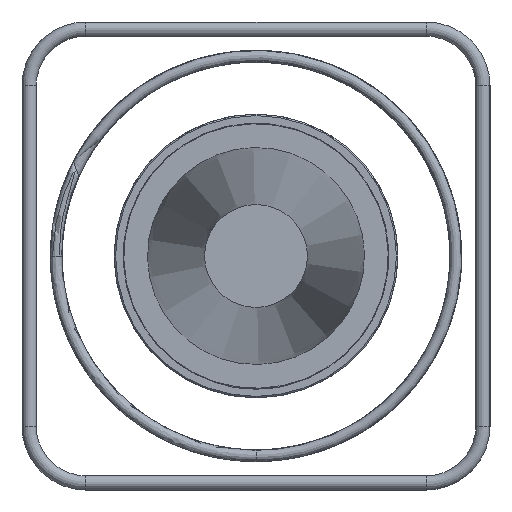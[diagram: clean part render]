
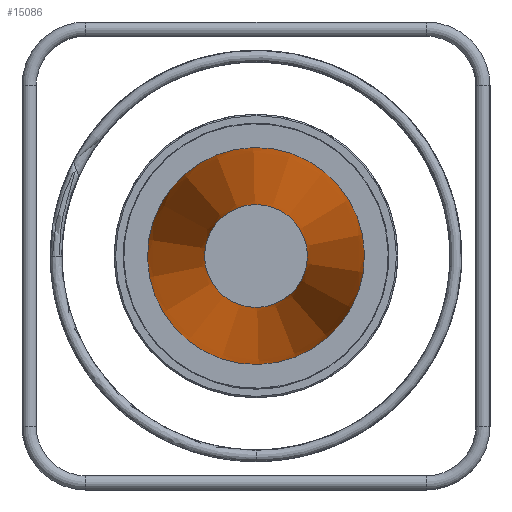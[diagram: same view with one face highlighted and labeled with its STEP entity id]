
A CAD part, left-side view. The second image highlights one B-rep face of the part: STEP entity #15086.
In plain terms, the highlighted conical face has half-angle 1.999 degrees and reference radius 112.75 mm.
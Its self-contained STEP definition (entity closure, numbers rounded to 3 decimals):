
#15=CONICAL_SURFACE('',#16021,112.75,1.999);
#3621=FACE_BOUND('',#5472,.T.);
#4456=FACE_OUTER_BOUND('',#5471,.T.);
#5471=EDGE_LOOP('',(#13632));
#5472=EDGE_LOOP('',(#13633));
#5958=CIRCLE('',#16020,153.);
#5959=CIRCLE('',#16022,72.5);
#7403=VERTEX_POINT('',#36965);
#7404=VERTEX_POINT('',#36968);
#9510=EDGE_CURVE('',#7403,#7403,#5958,.T.);
#9511=EDGE_CURVE('',#7404,#7404,#5959,.T.);
#13632=ORIENTED_EDGE('',*,*,#9511,.F.);
#13633=ORIENTED_EDGE('',*,*,#9510,.T.);
#15086=ADVANCED_FACE('',(#4456,#3621),#15,.T.);
#16020=AXIS2_PLACEMENT_3D('',#36966,#18746,#18747);
#16021=AXIS2_PLACEMENT_3D('',#36967,#18748,#18749);
#16022=AXIS2_PLACEMENT_3D('',#36969,#18750,#18751);
#18746=DIRECTION('center_axis',(-1.,0.,0.));
#18747=DIRECTION('ref_axis',(0.,-0.198,-0.98));
#18748=DIRECTION('center_axis',(1.,0.,0.));
#18749=DIRECTION('ref_axis',(0.,0.98,-0.198));
#18750=DIRECTION('center_axis',(-1.,0.,0.));
#18751=DIRECTION('ref_axis',(0.,-0.198,-0.98));
#36965=CARTESIAN_POINT('',(-647.,149.986,-30.218));
#36966=CARTESIAN_POINT('Origin',(-647.,0.,
0.));
#36967=CARTESIAN_POINT('Origin',(-1800.,0.,
0.));
#36968=CARTESIAN_POINT('',(-2953.,71.072,-14.319));
#36969=CARTESIAN_POINT('Origin',(-2953.,0.,
0.));
